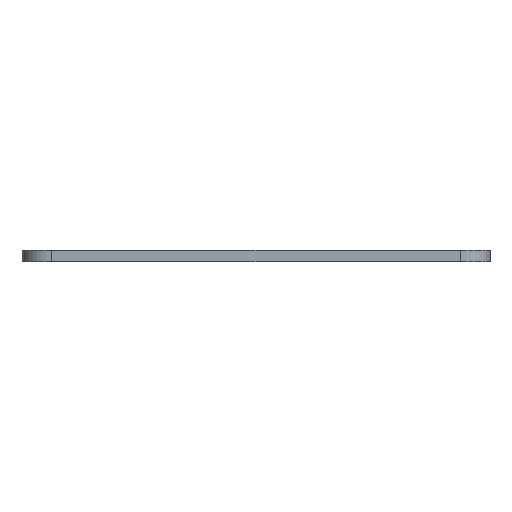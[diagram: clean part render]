
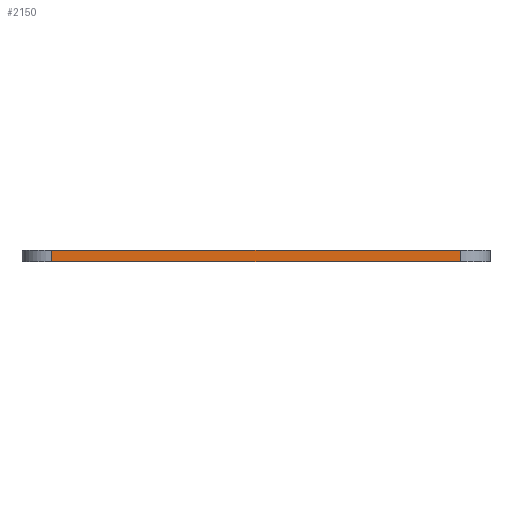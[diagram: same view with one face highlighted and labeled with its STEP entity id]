
A CAD part, front view. The second image highlights one B-rep face of the part: STEP entity #2150.
In plain terms, the highlighted planar face has unit normal (0, -1, 0).
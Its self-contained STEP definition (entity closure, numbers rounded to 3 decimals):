
#62 = CYLINDRICAL_SURFACE('',#63,12.);
#63 = AXIS2_PLACEMENT_3D('',#64,#65,#66);
#64 = CARTESIAN_POINT('',(-83.,-104.,2.4));
#65 = DIRECTION('',(0.,0.,1.));
#66 = DIRECTION('',(-1.,0.,0.));
#90 = PLANE('',#91);
#91 = AXIS2_PLACEMENT_3D('',#92,#93,#94);
#92 = CARTESIAN_POINT('',(0.,-29.,0.));
#93 = DIRECTION('',(0.,0.,1.));
#94 = DIRECTION('',(1.,0.,-0.));
#144 = PLANE('',#145);
#145 = AXIS2_PLACEMENT_3D('',#146,#147,#148);
#146 = CARTESIAN_POINT('',(0.,-29.,4.8));
#147 = DIRECTION('',(0.,0.,1.));
#148 = DIRECTION('',(1.,0.,-0.));
#160 = VERTEX_POINT('',#161);
#161 = CARTESIAN_POINT('',(-83.,-116.,4.8));
#189 = VERTEX_POINT('',#190);
#190 = CARTESIAN_POINT('',(-83.,-116.,0.));
#216 = EDGE_CURVE('',#189,#160,#217,.T.);
#217 = SURFACE_CURVE('',#218,(#222,#229),.PCURVE_S1.);
#218 = LINE('',#219,#220);
#219 = CARTESIAN_POINT('',(-83.,-116.,0.));
#220 = VECTOR('',#221,1.);
#221 = DIRECTION('',(0.,0.,1.));
#222 = PCURVE('',#62,#223);
#223 = DEFINITIONAL_REPRESENTATION('',(#224),#228);
#224 = LINE('',#225,#226);
#225 = CARTESIAN_POINT('',(1.571,-2.4));
#226 = VECTOR('',#227,1.);
#227 = DIRECTION('',(0.,1.));
#228 = ( GEOMETRIC_REPRESENTATION_CONTEXT(2) 
PARAMETRIC_REPRESENTATION_CONTEXT() REPRESENTATION_CONTEXT('2D SPACE',''
  ) );
#229 = PCURVE('',#230,#235);
#230 = PLANE('',#231);
#231 = AXIS2_PLACEMENT_3D('',#232,#233,#234);
#232 = CARTESIAN_POINT('',(-83.,-116.,2.4));
#233 = DIRECTION('',(0.,-1.,0.));
#234 = DIRECTION('',(1.,0.,0.));
#235 = DEFINITIONAL_REPRESENTATION('',(#236),#240);
#236 = LINE('',#237,#238);
#237 = CARTESIAN_POINT('',(0.,-2.4));
#238 = VECTOR('',#239,1.);
#239 = DIRECTION('',(0.,1.));
#240 = ( GEOMETRIC_REPRESENTATION_CONTEXT(2) 
PARAMETRIC_REPRESENTATION_CONTEXT() REPRESENTATION_CONTEXT('2D SPACE',''
  ) );
#247 = EDGE_CURVE('',#189,#248,#250,.T.);
#248 = VERTEX_POINT('',#249);
#249 = CARTESIAN_POINT('',(83.,-116.,0.));
#250 = SURFACE_CURVE('',#251,(#255,#262),.PCURVE_S1.);
#251 = LINE('',#252,#253);
#252 = CARTESIAN_POINT('',(0.,-116.,0.));
#253 = VECTOR('',#254,1.);
#254 = DIRECTION('',(1.,0.,0.));
#255 = PCURVE('',#90,#256);
#256 = DEFINITIONAL_REPRESENTATION('',(#257),#261);
#257 = LINE('',#258,#259);
#258 = CARTESIAN_POINT('',(0.,-87.));
#259 = VECTOR('',#260,1.);
#260 = DIRECTION('',(1.,0.));
#261 = ( GEOMETRIC_REPRESENTATION_CONTEXT(2) 
PARAMETRIC_REPRESENTATION_CONTEXT() REPRESENTATION_CONTEXT('2D SPACE',''
  ) );
#262 = PCURVE('',#230,#263);
#263 = DEFINITIONAL_REPRESENTATION('',(#264),#268);
#264 = LINE('',#265,#266);
#265 = CARTESIAN_POINT('',(83.,-2.4));
#266 = VECTOR('',#267,1.);
#267 = DIRECTION('',(1.,0.));
#268 = ( GEOMETRIC_REPRESENTATION_CONTEXT(2) 
PARAMETRIC_REPRESENTATION_CONTEXT() REPRESENTATION_CONTEXT('2D SPACE',''
  ) );
#291 = CYLINDRICAL_SURFACE('',#292,12.);
#292 = AXIS2_PLACEMENT_3D('',#293,#294,#295);
#293 = CARTESIAN_POINT('',(83.,-104.,2.4));
#294 = DIRECTION('',(0.,0.,1.));
#295 = DIRECTION('',(-1.,0.,0.));
#1252 = EDGE_CURVE('',#160,#1253,#1255,.T.);
#1253 = VERTEX_POINT('',#1254);
#1254 = CARTESIAN_POINT('',(83.,-116.,4.8));
#1255 = SURFACE_CURVE('',#1256,(#1260,#1267),.PCURVE_S1.);
#1256 = LINE('',#1257,#1258);
#1257 = CARTESIAN_POINT('',(0.,-116.,4.8));
#1258 = VECTOR('',#1259,1.);
#1259 = DIRECTION('',(1.,0.,0.));
#1260 = PCURVE('',#144,#1261);
#1261 = DEFINITIONAL_REPRESENTATION('',(#1262),#1266);
#1262 = LINE('',#1263,#1264);
#1263 = CARTESIAN_POINT('',(0.,-87.));
#1264 = VECTOR('',#1265,1.);
#1265 = DIRECTION('',(1.,0.));
#1266 = ( GEOMETRIC_REPRESENTATION_CONTEXT(2) 
PARAMETRIC_REPRESENTATION_CONTEXT() REPRESENTATION_CONTEXT('2D SPACE',''
  ) );
#1267 = PCURVE('',#230,#1268);
#1268 = DEFINITIONAL_REPRESENTATION('',(#1269),#1273);
#1269 = LINE('',#1270,#1271);
#1270 = CARTESIAN_POINT('',(83.,2.4));
#1271 = VECTOR('',#1272,1.);
#1272 = DIRECTION('',(1.,0.));
#1273 = ( GEOMETRIC_REPRESENTATION_CONTEXT(2) 
PARAMETRIC_REPRESENTATION_CONTEXT() REPRESENTATION_CONTEXT('2D SPACE',''
  ) );
#2150 = ADVANCED_FACE('',(#2151),#230,.T.);
#2151 = FACE_BOUND('',#2152,.T.);
#2152 = EDGE_LOOP('',(#2153,#2154,#2155,#2176));
#2153 = ORIENTED_EDGE('',*,*,#216,.F.);
#2154 = ORIENTED_EDGE('',*,*,#247,.T.);
#2155 = ORIENTED_EDGE('',*,*,#2156,.T.);
#2156 = EDGE_CURVE('',#248,#1253,#2157,.T.);
#2157 = SURFACE_CURVE('',#2158,(#2162,#2169),.PCURVE_S1.);
#2158 = LINE('',#2159,#2160);
#2159 = CARTESIAN_POINT('',(83.,-116.,0.));
#2160 = VECTOR('',#2161,1.);
#2161 = DIRECTION('',(0.,0.,1.));
#2162 = PCURVE('',#230,#2163);
#2163 = DEFINITIONAL_REPRESENTATION('',(#2164),#2168);
#2164 = LINE('',#2165,#2166);
#2165 = CARTESIAN_POINT('',(166.,-2.4));
#2166 = VECTOR('',#2167,1.);
#2167 = DIRECTION('',(0.,1.));
#2168 = ( GEOMETRIC_REPRESENTATION_CONTEXT(2) 
PARAMETRIC_REPRESENTATION_CONTEXT() REPRESENTATION_CONTEXT('2D SPACE',''
  ) );
#2169 = PCURVE('',#291,#2170);
#2170 = DEFINITIONAL_REPRESENTATION('',(#2171),#2175);
#2171 = LINE('',#2172,#2173);
#2172 = CARTESIAN_POINT('',(1.571,-2.4));
#2173 = VECTOR('',#2174,1.);
#2174 = DIRECTION('',(0.,1.));
#2175 = ( GEOMETRIC_REPRESENTATION_CONTEXT(2) 
PARAMETRIC_REPRESENTATION_CONTEXT() REPRESENTATION_CONTEXT('2D SPACE',''
  ) );
#2176 = ORIENTED_EDGE('',*,*,#1252,.F.);
